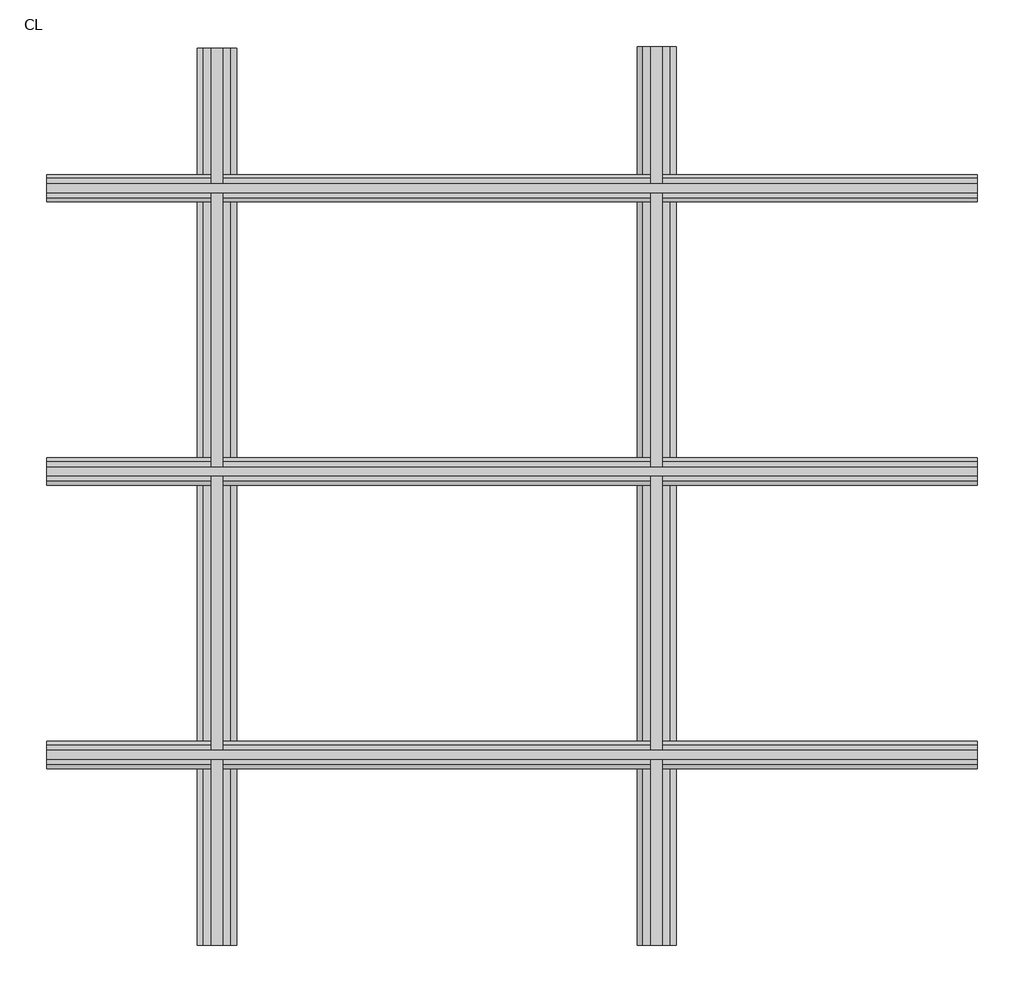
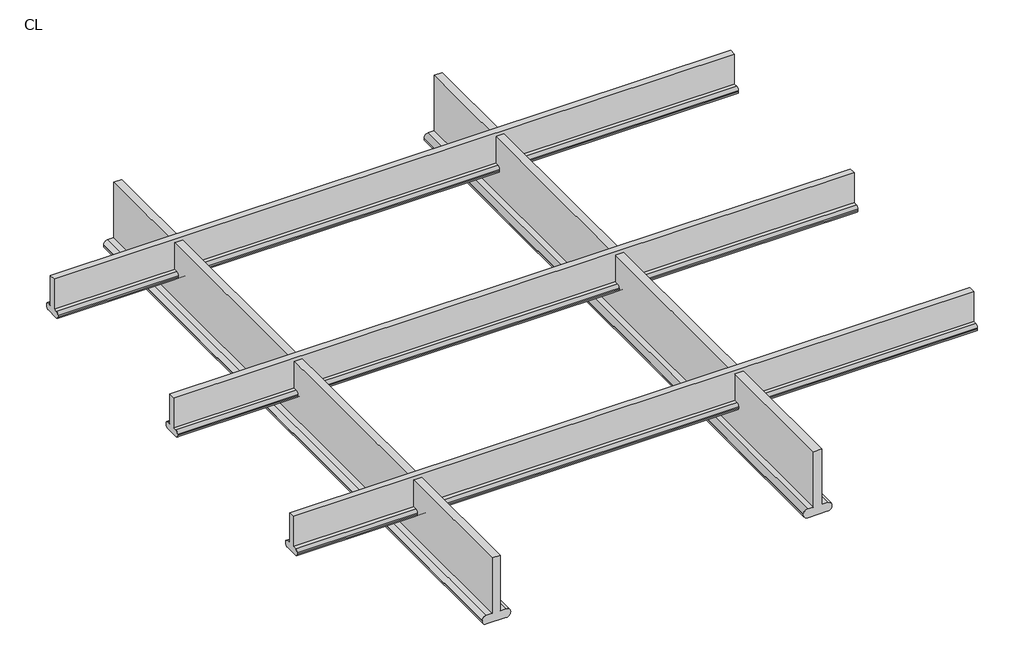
# One storey: 5 beams.
"""IFC4 building model written with IfcOpenShell, lengths in millimetres."""

from ifc_helpers import new_model, si_unit, origin, place, context, project, spatial, transform, mapped, element, save
from components import proofing_steel_500x200_7034851e, proofing_steel_900x300_05167fdf, proofing_steel_900x300_569d03ce

model = new_model("IFC4")

# Units and contexts
model_context = context("Model", 3, world=origin())
ifc_project = project(units=[si_unit("LENGTHUNIT", "METRE", prefix="MILLI")], contexts=[model_context])

# Site, building, storey
site = spatial("IfcSite", under=ifc_project)
building = spatial("IfcBuilding", under=site)
storey = spatial("IfcBuildingStorey", under=building, Name="CL", Elevation=4320.0)

# Beams
placement = place(None, origin())
proofing_steel_500x200_shape = proofing_steel_500x200_7034851e(model_context)
element("IfcBeam", 1, ObjectType="Proofing-Steel : 500x200", at=placement, inside=storey, context=model_context, shape_type="MappedRepresentation", body=[
    mapped(proofing_steel_500x200_shape, transform((17045.829281, 729.1943501, 4220.0), x_axis=(-1.0, 0.0, 0.0), y_axis=(0.0, -1.0, 0.0), z_axis=(0.0, 0.0, 1.0))),
])
element("IfcBeam", 2, ObjectType="Proofing-Steel : 500x200", at=placement, inside=storey, context=model_context, shape_type="MappedRepresentation", body=[
    mapped(proofing_steel_500x200_shape, transform((17045.829281, -2170.8056499, 4220.0), x_axis=(-1.0, 0.0, 0.0), y_axis=(0.0, -1.0, 0.0), z_axis=(0.0, 0.0, 1.0))),
])
element("IfcBeam", 3, ObjectType="Proofing-Steel : 500x200", at=placement, inside=storey, context=model_context, shape_type="MappedRepresentation", body=[
    mapped(proofing_steel_500x200_shape, transform((17045.829281, 3629.1943501, 4220.0), x_axis=(-1.0, 0.0, 0.0), y_axis=(0.0, -1.0, 0.0), z_axis=(0.0, 0.0, 1.0))),
])
proofing_steel_900x300_shape = proofing_steel_900x300_05167fdf(model_context)
element("IfcBeam", 4, ObjectType="Proofing-Steel : 900x300", at=placement, inside=storey, context=model_context, shape_type="MappedRepresentation", body=[
    mapped(proofing_steel_900x300_shape, transform((13343.0692831, 470.6922238, 3970.0), x_axis=(0.0, -1.0, 0.0), y_axis=(1.0, 0.0, 0.0), z_axis=(0.0, 0.0, 1.0))),
])
proofing_steel_900x300_2_shape = proofing_steel_900x300_569d03ce(model_context)
element("IfcBeam", 5, ObjectType="Proofing-Steel : 900x300", at=placement, inside=storey, context=model_context, shape_type="MappedRepresentation", body=[
    mapped(proofing_steel_900x300_2_shape, transform((17843.0692831, 479.6922238, 3970.0), x_axis=(0.0, -1.0, 0.0), y_axis=(1.0, 0.0, 0.0), z_axis=(0.0, 0.0, 1.0))),
])

save(model, "model.ifc")
